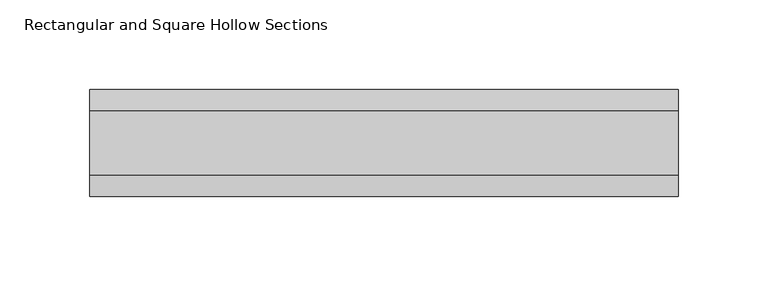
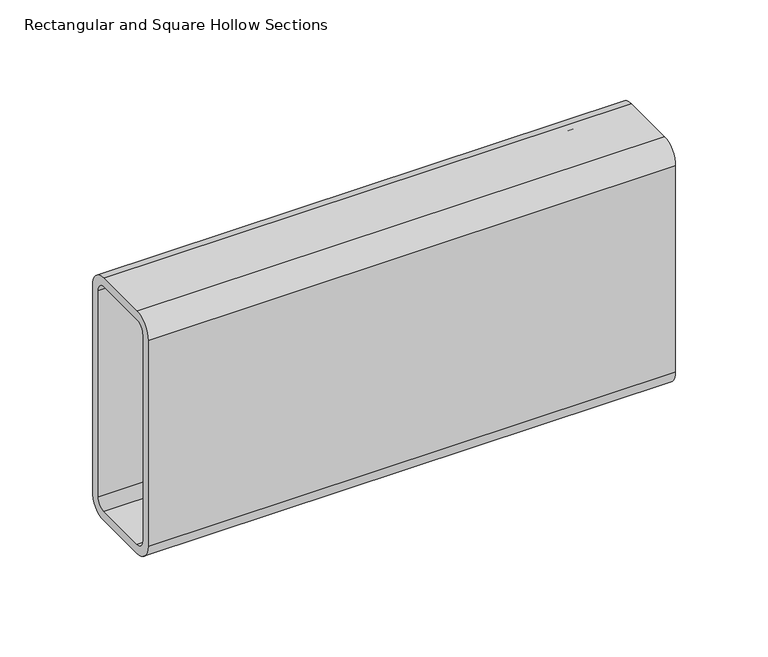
"""IFC4 building model written with IfcOpenShell, lengths in millimetres: beam geometry, Rectangular and Square Hollow Sections : TREC160x60x6."""

from ifc_helpers import new_model, si_unit, point, frame, frame_2d, origin, place, context, project, spatial, polyline, circle_curve, trimmed, segment, composite_curve, outline, extrude, source, transform, mapped, element, save


def rectangular_and_square_hollow_sections_ed79004a(model_context):
    return source(origin(), model_context, "Body", "SweptSolid", [
        extrude(outline(composite_curve([segment(polyline([(30.0, 68.0), (30.0, -68.0)]), True, "CONTINUOUS"), segment(trimmed(circle_curve(frame_2d((18.0, -68.0)), 12.0), [point((30.0, -68.0))], [point((18.0, -80.0))], False, "CARTESIAN"), True, "CONTINUOUS"), segment(polyline([(18.0, -80.0), (-18.0, -80.0)]), True, "CONTINUOUS"), segment(trimmed(circle_curve(frame_2d((-18.0, -68.0)), 12.0), [point((-18.0, -80.0))], [point((-30.0, -68.0))], False, "CARTESIAN"), True, "CONTINUOUS"), segment(polyline([(-30.0, -68.0), (-30.0, 68.0)]), True, "CONTINUOUS"), segment(trimmed(circle_curve(frame_2d((-18.0, 68.0)), 12.0), [point((-30.0, 68.0))], [point((-18.0, 80.0))], False, "CARTESIAN"), True, "CONTINUOUS"), segment(polyline([(-18.0, 80.0), (18.0, 80.0)]), True, "CONTINUOUS"), segment(trimmed(circle_curve(frame_2d((18.0, 68.0)), 12.0), [point((18.0, 80.0))], [point((30.0, 68.0))], False, "CARTESIAN"), True, "CONTINUOUS")], self_intersect=False), holes=[composite_curve([segment(trimmed(circle_curve(frame_2d((-18.0, 68.0)), 6.0), [point((-18.0, 74.0))], [point((-24.0, 68.0))], True, "CARTESIAN"), True, "CONTINUOUS"), segment(polyline([(-24.0, 68.0), (-24.0, -68.0)]), True, "CONTINUOUS"), segment(trimmed(circle_curve(frame_2d((-18.0, -68.0)), 6.0), [point((-24.0, -68.0))], [point((-18.0, -74.0))], True, "CARTESIAN"), True, "CONTINUOUS"), segment(polyline([(-18.0, -74.0), (18.0, -74.0)]), True, "CONTINUOUS"), segment(trimmed(circle_curve(frame_2d((18.0, -68.0)), 6.0), [point((18.0, -74.0))], [point((24.0, -68.0))], True, "CARTESIAN"), True, "CONTINUOUS"), segment(polyline([(24.0, -68.0), (24.0, 68.0)]), True, "CONTINUOUS"), segment(trimmed(circle_curve(frame_2d((18.0, 68.0)), 6.0), [point((24.0, 68.0))], [point((18.0, 74.0))], True, "CARTESIAN"), True, "CONTINUOUS"), segment(polyline([(18.0, 74.0), (-18.0, 74.0)]), True, "CONTINUOUS")], self_intersect=False)]), frame((-150.0, 0.0, 0.0), z_axis=(1.0, 0.0, 0.0), x_axis=(0.0, 1.0, 0.0)), (0.0, 0.0, 1.0), 329.0),
    ])


if __name__ == "__main__":
    model = new_model("IFC4")
    model_context = context("Model", 3, world=origin())
    ifc_project = project(units=[si_unit("LENGTHUNIT", "METRE", prefix="MILLI")], contexts=[model_context])
    site = spatial("IfcSite", under=ifc_project)
    building = spatial("IfcBuilding", under=site)
    placement = place(None, origin())
    rectangular_and_square_hollow_sections_shape = rectangular_and_square_hollow_sections_ed79004a(model_context)
    element("IfcBeam", 1, ObjectType="Rectangular and Square Hollow Sections : TREC160x60x6", at=placement, inside=building, context=model_context, shape_type="MappedRepresentation", body=[
        mapped(rectangular_and_square_hollow_sections_shape, transform((0.0, 0.0, 0.0), x_axis=(1.0, 0.0, 0.0), y_axis=(0.0, 1.0, 0.0), z_axis=(0.0, 0.0, 1.0))),
    ])
    save(model, "model.ifc")
